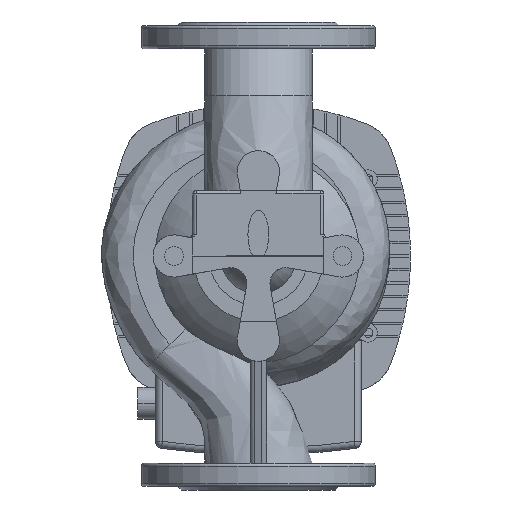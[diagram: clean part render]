
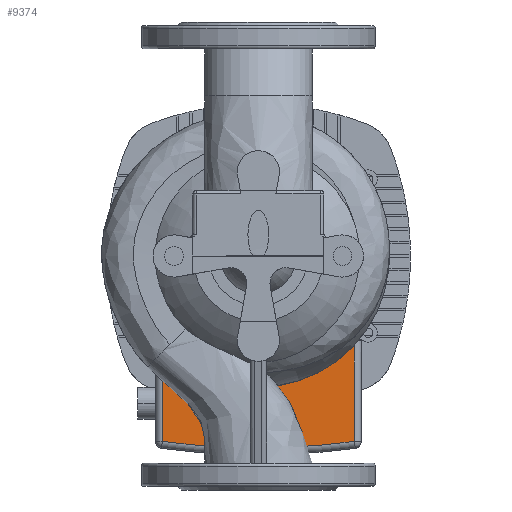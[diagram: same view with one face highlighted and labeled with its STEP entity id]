
A CAD part, front view. The second image highlights one B-rep face of the part: STEP entity #9374.
In plain terms, the highlighted planar face has unit normal (0, -1, 0).
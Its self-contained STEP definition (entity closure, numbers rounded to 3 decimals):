
#55 = VECTOR ( 'NONE', #28132, 1000. ) ;
#525 = LINE ( 'NONE', #14745, #55 ) ;
#1843 = ORIENTED_EDGE ( 'NONE', *, *, #38739, .T. ) ;
#2166 = EDGE_CURVE ( 'NONE', #35740, #31556, #29966, .T. ) ;
#2614 = CIRCLE ( 'NONE', #30788, 607. ) ;
#4026 = CARTESIAN_POINT ( 'NONE',  ( -68., 286.5, -128.5 ) ) ;
#4043 = CARTESIAN_POINT ( 'NONE',  ( 82., 286.5, -72.569 ) ) ;
#5581 = VERTEX_POINT ( 'NONE', #41788 ) ;
#5645 = EDGE_LOOP ( 'NONE', ( #25976, #25234, #30851, #1843, #40627 ) ) ;
#7645 = DIRECTION ( 'NONE',  ( 0., -1., 0. ) ) ;
#8107 = CARTESIAN_POINT ( 'NONE',  ( 0., 286.5, 0. ) ) ;
#9093 = CARTESIAN_POINT ( 'NONE',  ( -82., 286.5, -72.569 ) ) ;
#9374 = ADVANCED_FACE ( 'NONE', ( #11482 ), #24382, .T. ) ;
#9622 = VERTEX_POINT ( 'NONE', #14148 ) ;
#10366 = CIRCLE ( 'NONE', #33525, 607. ) ;
#11482 = FACE_OUTER_BOUND ( 'NONE', #5645, .T. ) ;
#11893 = AXIS2_PLACEMENT_3D ( 'NONE', #8107, #36399, #39356 ) ;
#13386 = EDGE_CURVE ( 'NONE', #5581, #35740, #525, .T. ) ;
#14131 = AXIS2_PLACEMENT_3D ( 'NONE', #4026, #7645, #38239 ) ;
#14148 = CARTESIAN_POINT ( 'NONE',  ( -82., 286.5, -158.436 ) ) ;
#14745 = CARTESIAN_POINT ( 'NONE',  ( 82., 286.5, -128.5 ) ) ;
#16285 = CARTESIAN_POINT ( 'NONE',  ( 0., 286.5, 443. ) ) ;
#17539 = CARTESIAN_POINT ( 'NONE',  ( -82., 286.5, -128.5 ) ) ;
#21781 = CARTESIAN_POINT ( 'NONE',  ( 0., 286.5, 443. ) ) ;
#22630 = DIRECTION ( 'NONE',  ( 0., 0., 1. ) ) ;
#24382 = PLANE ( 'NONE',  #14131 ) ;
#25234 = ORIENTED_EDGE ( 'NONE', *, *, #32975, .T. ) ;
#25976 = ORIENTED_EDGE ( 'NONE', *, *, #2166, .T. ) ;
#27910 = DIRECTION ( 'NONE',  ( 0., -1., 0. ) ) ;
#28132 = DIRECTION ( 'NONE',  ( 0., 0., 1. ) ) ;
#28783 = VERTEX_POINT ( 'NONE', #29202 ) ;
#29202 = CARTESIAN_POINT ( 'NONE',  ( 0., 286.5, -164. ) ) ;
#29435 = DIRECTION ( 'NONE',  ( 0., -1., 0. ) ) ;
#29966 = CIRCLE ( 'NONE', #11893, 109.5 ) ;
#30788 = AXIS2_PLACEMENT_3D ( 'NONE', #21781, #27910, #31538 ) ;
#30851 = ORIENTED_EDGE ( 'NONE', *, *, #43562, .T. ) ;
#31538 = DIRECTION ( 'NONE',  ( 0., 0., 1. ) ) ;
#31543 = VECTOR ( 'NONE', #35215, 1000. ) ;
#31556 = VERTEX_POINT ( 'NONE', #9093 ) ;
#32975 = EDGE_CURVE ( 'NONE', #31556, #9622, #42023, .T. ) ;
#33525 = AXIS2_PLACEMENT_3D ( 'NONE', #16285, #29435, #22630 ) ;
#35215 = DIRECTION ( 'NONE',  ( 0., 0., -1. ) ) ;
#35740 = VERTEX_POINT ( 'NONE', #4043 ) ;
#36399 = DIRECTION ( 'NONE',  ( 0., 1., 0. ) ) ;
#38239 = DIRECTION ( 'NONE',  ( 0., 0., 1. ) ) ;
#38739 = EDGE_CURVE ( 'NONE', #28783, #5581, #10366, .T. ) ;
#39356 = DIRECTION ( 'NONE',  ( -1., 0., 0. ) ) ;
#40627 = ORIENTED_EDGE ( 'NONE', *, *, #13386, .T. ) ;
#41788 = CARTESIAN_POINT ( 'NONE',  ( 82., 286.5, -158.436 ) ) ;
#42023 = LINE ( 'NONE', #17539, #31543 ) ;
#43562 = EDGE_CURVE ( 'NONE', #9622, #28783, #2614, .T. ) ;
